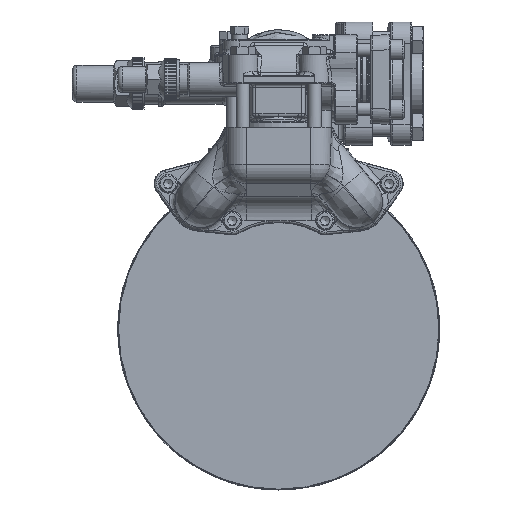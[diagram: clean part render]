
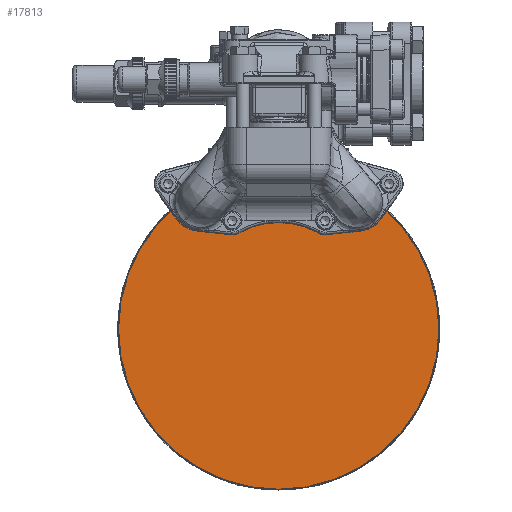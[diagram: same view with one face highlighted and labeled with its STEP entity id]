
A CAD part, left-side view. The second image highlights one B-rep face of the part: STEP entity #17813.
In plain terms, the highlighted planar face has unit normal (-1, 0, 0) as drawn and (0, 1, 0) by its records, which use the part's own axes.
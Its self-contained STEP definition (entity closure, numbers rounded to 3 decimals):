
#10080=PLANE('',#49147);
#12585=FACE_OUTER_BOUND('',#21829,.T.);
#17813=ADVANCED_FACE('',(#12585),#10080,.F.);
#21829=EDGE_LOOP('',(#32873,#32874));
#32873=ORIENTED_EDGE('',*,*,#43156,.T.);
#32874=ORIENTED_EDGE('',*,*,#43157,.T.);
#37398=VERTEX_POINT('',#123827);
#37399=VERTEX_POINT('',#123828);
#43156=EDGE_CURVE('',#37398,#37399,#45570,.T.);
#43157=EDGE_CURVE('',#37399,#37398,#45571,.T.);
#45570=CIRCLE('',#49145,142.9);
#45571=CIRCLE('',#49146,142.9);
#49145=AXIS2_PLACEMENT_3D('',#123826,#57400,#57401);
#49146=AXIS2_PLACEMENT_3D('',#123829,#57402,#57403);
#49147=AXIS2_PLACEMENT_3D('',#123830,#57404,#57405);
#57400=DIRECTION('',(0.,1.,0.));
#57401=DIRECTION('',(0.,0.,-1.));
#57402=DIRECTION('',(0.,1.,0.));
#57403=DIRECTION('',(0.,0.,-1.));
#57404=DIRECTION('',(0.,-1.,0.));
#57405=DIRECTION('',(1.,0.,0.003));
#123826=CARTESIAN_POINT('',(0.,1.,0.));
#123827=CARTESIAN_POINT('',(-142.899,1.,-0.494));
#123828=CARTESIAN_POINT('',(142.899,1.,0.494));
#123829=CARTESIAN_POINT('',(0.,1.,0.));
#123830=CARTESIAN_POINT('',(-200.764,1.,-223.515));
